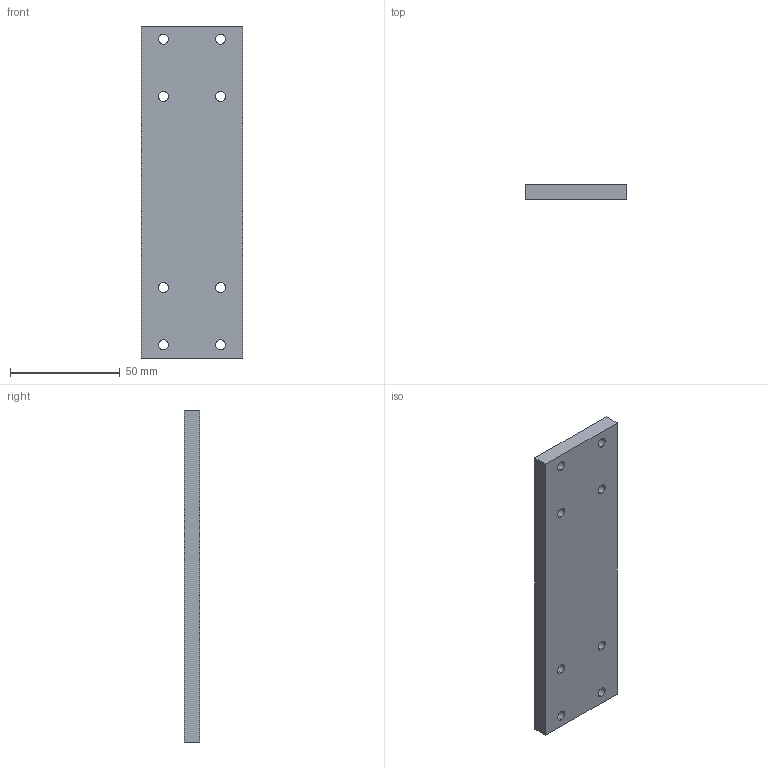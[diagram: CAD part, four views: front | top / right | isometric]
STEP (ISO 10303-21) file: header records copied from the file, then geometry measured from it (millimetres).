
FILE_DESCRIPTION(('CATIA V5 STEP Exchange'),'2;1');
FILE_NAME('D:\姚明阳\1、工装图纸\VDC阀插管工装治具\VDC阀插管工装治具\GZ30.25_V1.stp','2024-11-22T12:07:33+00:00',('none'),('none'),'CATIA Version 5 Release 21 GA (IN-10)','CATIA V5 STEP AP214','none');
FILE_SCHEMA(('AUTOMOTIVE_DESIGN { 1 0 10303 214 1 1 1 1 }'));
Length unit declared in the file: millimetre
Products named in the file (1): 压管垫板.1
Bounding box: 46 x 7 x 151 mm (x, y, z)
Volume: 47731.4 mm3; surface area: 17187.2 mm2
Topology: 1 solids, 1 shells, 22 faces, 60 edges, 40 vertices
Faces by surface type: cylinder 16, plane 6
Entity records: 879 total; most frequent: CARTESIAN_POINT 123, ORIENTED_EDGE 120, DIRECTION 104, EDGE_CURVE 60, AXIS2_PLACEMENT_3D 55, VERTEX_POINT 40, EDGE_LOOP 38, CIRCLE 32
